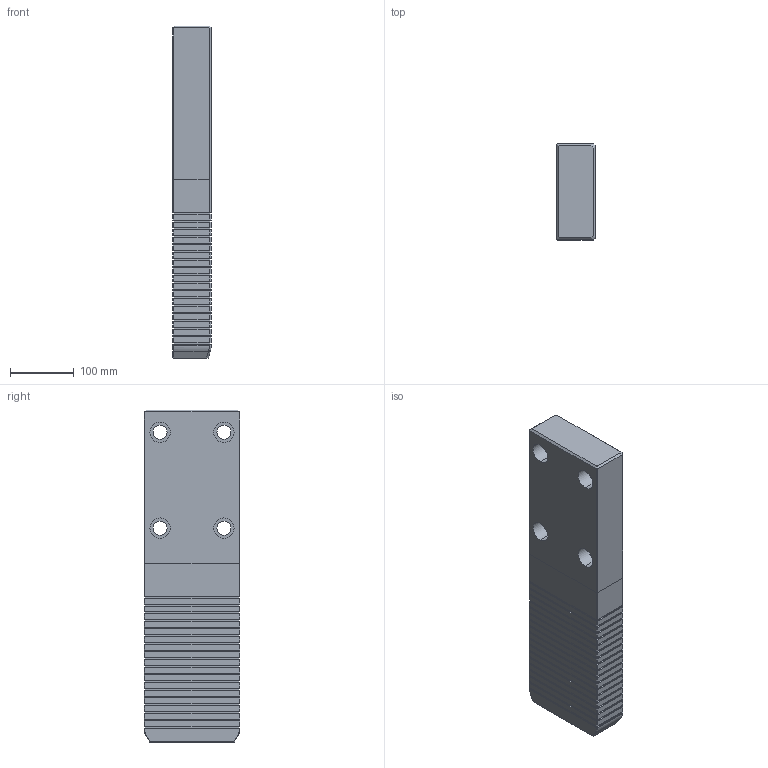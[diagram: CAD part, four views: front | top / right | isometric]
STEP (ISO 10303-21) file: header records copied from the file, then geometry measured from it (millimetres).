
FILE_DESCRIPTION((''),'2;1');
FILE_NAME('','2010-08-30T13:14:46+09:00',('misumi'),(''),'M/STEP i/f 1R2-14','CADmeister v5.1','');
FILE_SCHEMA(('AUTOMOTIVE_DESIGN'));
Length unit declared in the file: millimetre
Products named in the file (1): GWBZ150-520
Bounding box: 60 x 150 x 520 mm (x, y, z)
Volume: 4495348.8 mm3; surface area: 270580.2 mm2
Topology: 1 solids, 1 shells, 392 faces, 1025 edges, 676 vertices
Faces by surface type: plane 363, cylinder 21, bspline 6, cone 2
Entity records: 12183 total; most frequent: CARTESIAN_POINT 2436, ORIENTED_EDGE 2050, DIRECTION 1821, EDGE_CURVE 1025, LINE 967, VECTOR 967, VERTEX_POINT 676, EDGE_LOOP 441
